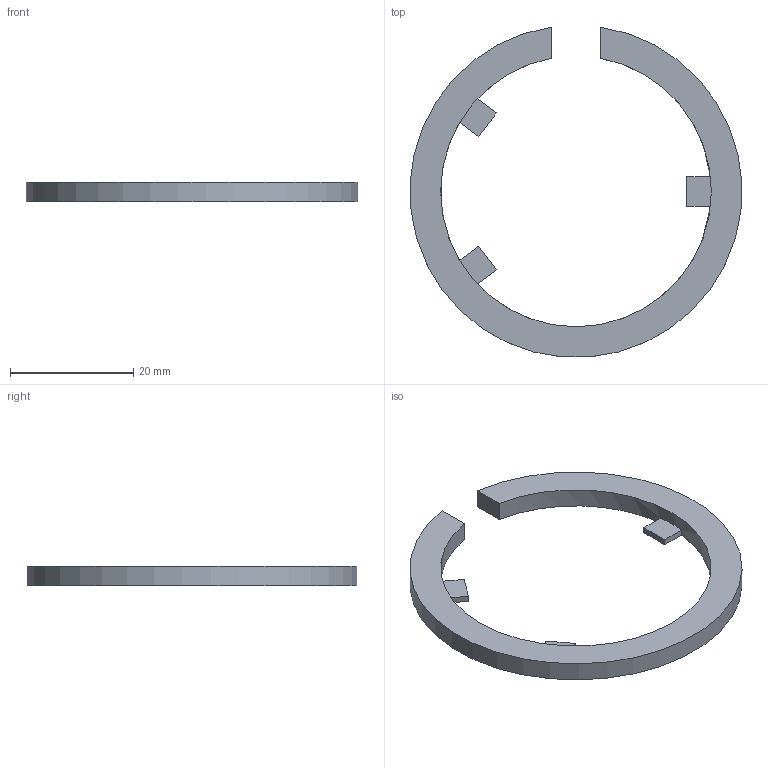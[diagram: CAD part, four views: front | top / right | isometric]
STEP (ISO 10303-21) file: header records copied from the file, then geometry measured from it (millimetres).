
FILE_DESCRIPTION(('Open CASCADE Model'),'2;1');
FILE_NAME('Open CASCADE Shape Model','2026-11-04T16:22:49',('Author'),( 'Open CASCADE'),'Open CASCADE STEP processor 7.9','Open CASCADE 7.9' ,'Unknown');
FILE_SCHEMA(('AUTOMOTIVE_DESIGN { 1 0 10303 214 1 1 1 1 }'));
Length unit declared in the file: millimetre
Products named in the file (1): Open CASCADE STEP translator 7.9 3
Bounding box: 53.92 x 53.6 x 3.2 mm (x, y, z)
Volume: 2391.4 mm3; surface area: 2562.3 mm2
Topology: 1 solids, 1 shells, 18 faces, 48 edges, 32 vertices
Faces by surface type: plane 16, cylinder 2
Entity records: 1181 total; most frequent: CARTESIAN_POINT 255, DIRECTION 157, ORIENTED_EDGE 96, PCURVE 96, DEFINITIONAL_REPRESENTATION 96, LINE 94, VECTOR 94, EDGE_CURVE 48
